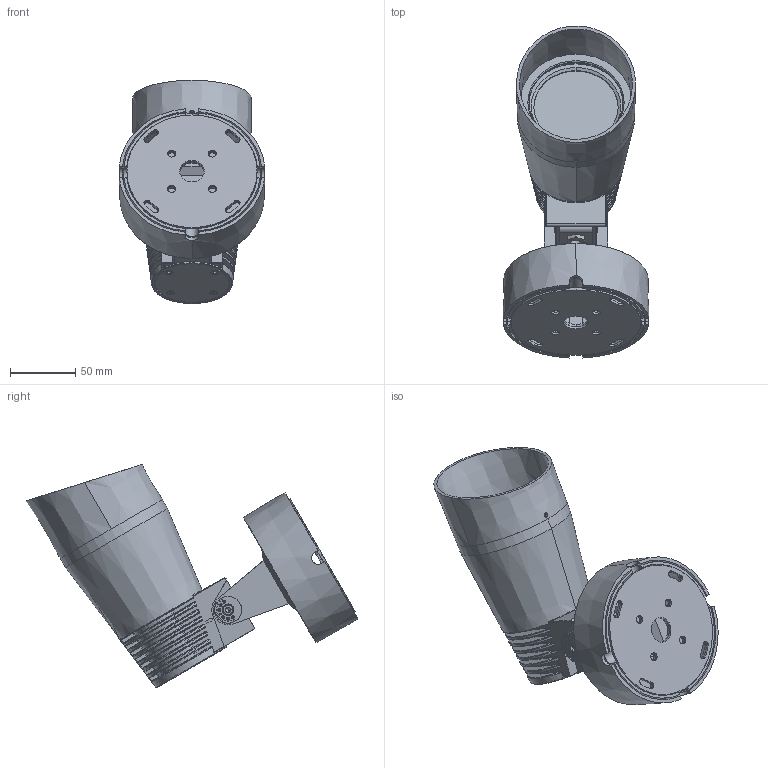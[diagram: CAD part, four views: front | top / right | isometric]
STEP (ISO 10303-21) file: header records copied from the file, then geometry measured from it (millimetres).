
FILE_DESCRIPTION((''),'2;1');
FILE_NAME('3BJMT_ASM','2024-09-04T',('Administrator'),(''),'CREO PARAMETRIC BY PTC INC, 2015200','CREO PARAMETRIC BY PTC INC, 2015200','');
FILE_SCHEMA(('CONFIG_CONTROL_DESIGN'));
Length unit declared in the file: millimetre
Products named in the file (29): HEXAGON_SOCKET_HEAD_CAP_S-992_1; 3DJ___________-173466_35_1; CROSS_RECESSED_PAN_HEAD_SCREW_1; 3DJ_____-26505_35_1; 3DJ_____-27217_35_1; 3DJ-A______35_1; 6228_-A0-INF-3D_STP-OS20087; PRT0003; 2019-3DJ; 3DJ2019; 3DJGUANGYUANBAN; 3DJ-3BG_ASM_35_1_ASM; 3DJ_________-171334_35_1; SCREW-M121_35_1; 3DJ_______-26850_35_1; 3DJ___________-101040_35_1; 3DJ_51_1; PTNLJ_M5-8L_1; 3DJ_____ASM_35_1_ASM; SOCKET_HEAD_CAP_SCREW_ISO-3_ISO; 3DJ-A2; 3DJ-A1; 3DJ___-15238; HEXAGON_SOCKET_HEAD_CAP_-499547; 3DJ-KEDUPAN; 3DJ-FPM; 6P-XIANKOU; 3DJ-Y1_ASM; 3BJMT_ASM
Assembly tree (42 placements, depth 4):
  3BJMT_ASM
    3DJ_____ASM_35_1_ASM
      HEXAGON_SOCKET_HEAD_CAP_S-992_1  x6
      3DJ___________-173466_35_1
      CROSS_RECESSED_PAN_HEAD_SCREW_1  x2
      3DJ_____-26505_35_1
      3DJ_____-27217_35_1
      3DJ-A______35_1
      3DJ-3BG_ASM_35_1_ASM
        6228_-A0-INF-3D_STP-OS20087
        PRT0003
        2019-3DJ
        3DJ2019
        3DJGUANGYUANBAN
      3DJ_________-171334_35_1
      SCREW-M121_35_1
      3DJ_______-26850_35_1
      3DJ___________-101040_35_1
      3DJ_51_1
      PTNLJ_M5-8L_1  x6
    3DJ-Y1_ASM
      SOCKET_HEAD_CAP_SCREW_ISO-3_ISO  x2
      3DJ-A2
      3DJ-A1
      3DJ___-15238
      HEXAGON_SOCKET_HEAD_CAP_-499547  x2
      3DJ-KEDUPAN  x2
      3DJ-FPM
      6P-XIANKOU
Bounding box: 111.72 x 253.89 x 170.87 mm (x, y, z)
Volume: 435120.9 mm3; surface area: 325690.5 mm2
Topology: 40 solids, 40 shells, 3547 faces, 9793 edges, 6450 vertices
Faces by surface type: plane 1394, cylinder 806, cone 495, bspline 341, torus 302, extrusion 204, sphere 5
Entity records: 129839 total; most frequent: CARTESIAN_POINT 52619, ORIENTED_EDGE 16962, DIRECTION 14741, EDGE_CURVE 8481, VERTEX_POINT 5601, AXIS2_PLACEMENT_3D 5421, VECTOR 3899, LINE 3695
